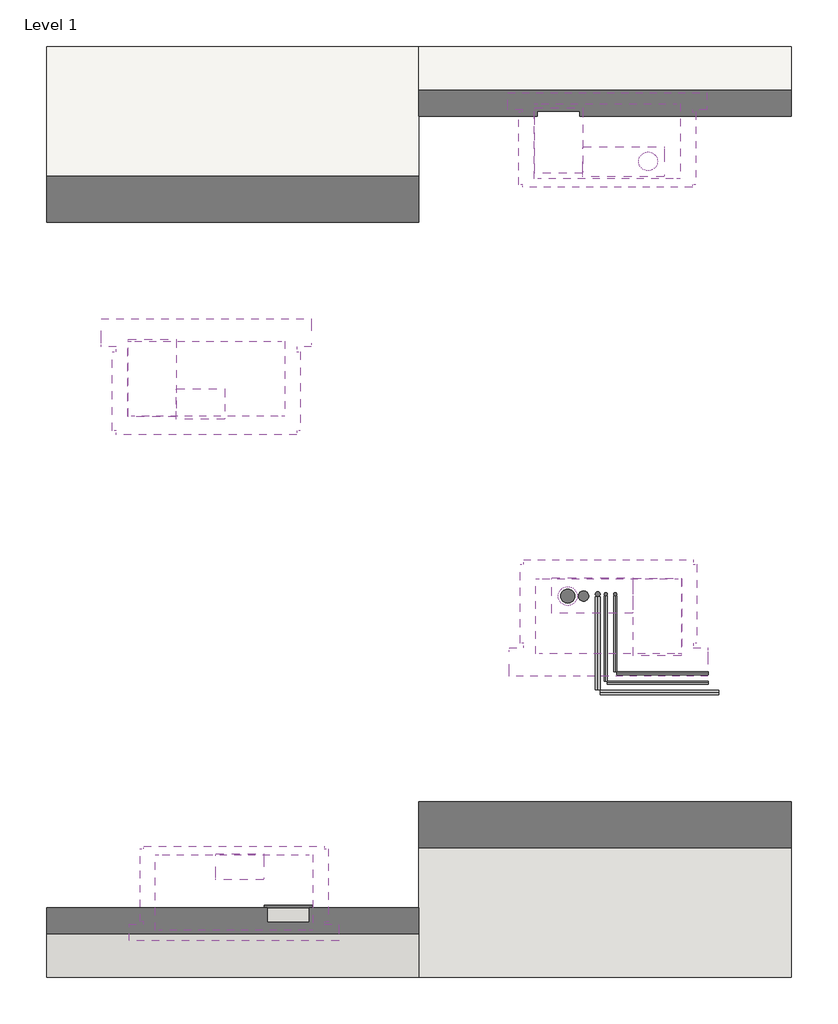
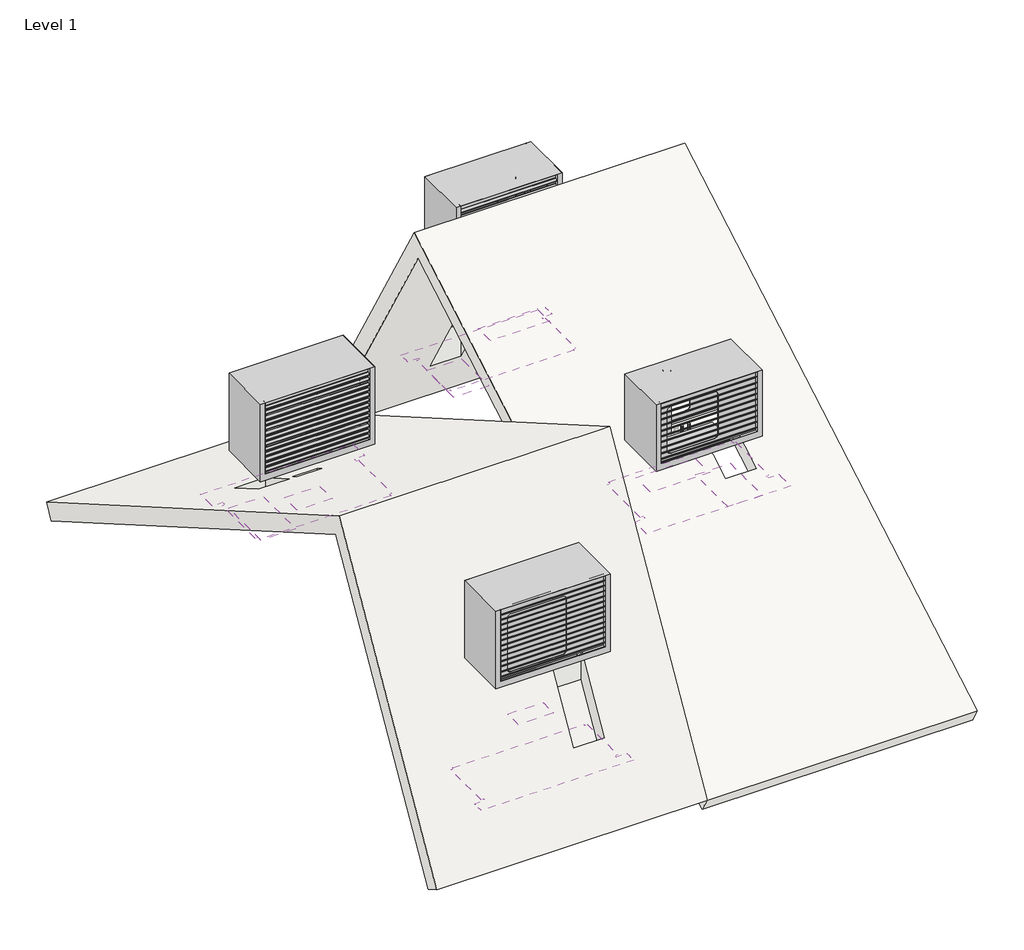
# One storey, incomplete: 12 coverings, 12 pipe segments, 4 unitary equipment elements, 2 roofs, 1 duct segment.
"""IFC4 building model written with IfcOpenShell, lengths in millimetres."""

from ifc_helpers import new_model, si_unit, point, frame, frame_2d, origin, place, context, project, spatial, circle_curve, trimmed, segment, composite_curve, outline, extrude, faceted_brep, transform, mapped, element, save
from components import covering_ebfa055f, covering_b66512e7, covering_b17e486a, covering_12e15cb3, covering_40b79405, covering_0022e7d6, covering_237e270b, covering_44cbcef2, inspection_panel_dda_93841c41, inspection_panel_dda_a83ceb8f, pipe_segment_adc9d0ba, delta_discovery_air_bdbf6794, delta_discovery_air_83ad3b17, delta_discovery_air_xl_f5126de7, delta_discovery_air_xl_14b97afa

model = new_model("IFC4")

# Units and contexts
model_context = context("Model", 3, world=origin())
ifc_project = project(units=[si_unit("LENGTHUNIT", "METRE", prefix="MILLI")], contexts=[model_context])

# Site, building, storey
site = spatial("IfcSite", under=ifc_project)
building = spatial("IfcBuilding", under=site)
storey = spatial("IfcBuildingStorey", under=building, Name="Level 1", Elevation=0.0)

# Coverings
placement = place(None, origin())
covering_shape = covering_ebfa055f(model_context)
element("IfcCovering", 1, ObjectType="NLRS_50_GM_WPB_Delta Discovery Air_roofboard-SH_M&G : roofboard DDA", at=placement, inside=storey, context=model_context, shape_type="MappedRepresentation", body=[
    mapped(covering_shape, transform((8173.9996074, -2235.3633269, 2475.4617163), x_axis=(0.0, 1.0, 0.0), y_axis=(-1.0, 0.0, 0.0), z_axis=(0.0, 0.0, 1.0))),
])
covering_2_shape = covering_b66512e7(model_context)
element("IfcCovering", 2, ObjectType="NLRS_50_GM_WPB_Delta Discovery Air_mountingbox-SH_M&G : mountingbox DDA", at=placement, inside=storey, context=model_context, shape_type="MappedRepresentation", body=[
    mapped(covering_2_shape, transform((8348.9996074, -2790.8188759, 2443.4405917), x_axis=(0.0, 1.0, 0.0), y_axis=(-1.0, 0.0, 0.0), z_axis=(0.0, 0.0, 1.0))),
])
covering_3_shape = covering_b17e486a(model_context)
element("IfcCovering", 3, ObjectType="NLRS_50_GM_WPB_Delta Discovery Air_mountingbox-SH_M&G : mountingbox DDA-XL", at=placement, inside=storey, context=model_context, shape_type="MappedRepresentation", body=[
    mapped(covering_3_shape, transform((4325.6169231, -5757.5859079, 1391.7305412), x_axis=(0.0, 1.0, 0.0), y_axis=(-1.0, 0.0, 0.0), z_axis=(0.0, 0.0, 1.0))),
])
covering_4_shape = covering_12e15cb3(model_context)
element("IfcCovering", 4, ObjectType="NLRS_50_GM_WPB_Delta Discovery Air_mountingbox-SH_M&G : mountingbox DDA", at=placement, inside=storey, context=model_context, shape_type="MappedRepresentation", body=[
    mapped(covering_4_shape, transform((8335.5299691, 2993.325922, 1571.7305412), x_axis=(0.0, -1.0, 0.0), y_axis=(1.0, 0.0, 0.0), z_axis=(0.0, 0.0, 1.0))),
])
covering_5_shape = covering_40b79405(model_context)
element("IfcCovering", 5, ObjectType="NLRS_50_GM_WPB_Delta Discovery Air_mountingbox-SH_M&G : mountingbox DDA-XL", at=placement, inside=storey, context=model_context, shape_type="MappedRepresentation", body=[
    mapped(covering_5_shape, transform((4028.9796779, 442.2510838, 2263.4405917), x_axis=(0.0, -1.0, 0.0), y_axis=(1.0, 0.0, 0.0), z_axis=(0.0, 0.0, 1.0))),
])
covering_6_shape = covering_0022e7d6(model_context)
element("IfcCovering", 6, ObjectType="NLRS_50_GM_WPB_Delta Discovery Air_roofboard-SH_M&G : roofboard DDA-XL", at=placement, inside=storey, context=model_context, shape_type="MappedRepresentation", body=[
    mapped(covering_6_shape, transform((4387.1169231, -5151.0925738, 1942.219356), x_axis=(0.0, 1.0, 0.0), y_axis=(-1.0, 0.0, 0.0), z_axis=(0.0, 0.0, 1.0))),
])
covering_7_shape = covering_237e270b(model_context)
element("IfcCovering", 7, ObjectType="NLRS_50_GM_WPB_Delta Discovery Air_roofboard-SH_M&G : roofboard DDA-XL", at=placement, inside=storey, context=model_context, shape_type="MappedRepresentation", body=[
    mapped(covering_7_shape, transform((3967.4796779, -166.4650275, 2326.2117163), x_axis=(0.0, -1.0, 0.0), y_axis=(1.0, 0.0, 0.0), z_axis=(0.0, 0.0, 1.0))),
])
covering_8_shape = covering_44cbcef2(model_context)
element("IfcCovering", 8, ObjectType="NLRS_50_GM_WPB_Delta Discovery Air_roofboard-SH_M&G : roofboard DDA", at=placement, inside=storey, context=model_context, shape_type="MappedRepresentation", body=[
    mapped(covering_8_shape, transform((8510.5299691, 2441.3325879, 2027.822587), x_axis=(0.0, -1.0, 0.0), y_axis=(1.0, 0.0, 0.0), z_axis=(0.0, 0.0, 1.0))),
])
inspection_panel_dda_shape = inspection_panel_dda_93841c41(model_context)
element("IfcCovering", 9, ObjectType="NLRS_50_GM_WPB_Delta Discovery Air_insp panel-SH_M&G : inspection panel DDA", at=placement, inside=storey, context=model_context, shape_type="MappedRepresentation", body=[
    mapped(inspection_panel_dda_shape, transform((8871.4996074, -2464.4270462, 2343.2117163), x_axis=(0.0, 1.0000000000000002, 0.0), y_axis=(-1.0000000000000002, 0.0, 0.0), z_axis=(0.0, 0.0, 1.0))),
])
element("IfcCovering", 10, ObjectType="NLRS_50_GM_WPB_Delta Discovery Air_insp panel-SH_M&G : inspection panel DDA", at=placement, inside=storey, context=model_context, shape_type="MappedRepresentation", body=[
    mapped(inspection_panel_dda_shape, transform((3446.4796779, 115.8592541, 2163.2117163), x_axis=(0.0, -1.0000000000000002, 0.0), y_axis=(1.0000000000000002, 0.0, 0.0), z_axis=(0.0, 0.0, 1.0))),
])
inspection_panel_dda_2_shape = inspection_panel_dda_a83ceb8f(model_context)
element("IfcCovering", 11, ObjectType="NLRS_50_GM_WPB_Delta Discovery Air_insp panel-SH_M&G : inspection panel DDA", at=placement, inside=storey, context=model_context, shape_type="MappedRepresentation", body=[
    mapped(inspection_panel_dda_2_shape, transform((4908.1169231, -5435.0925738, 1450.3169266), x_axis=(0.0, 1.0000000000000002, 0.0), y_axis=(-1.0000000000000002, 0.0, 0.0), z_axis=(0.0, 0.0, 1.0))),
])
element("IfcCovering", 12, ObjectType="NLRS_50_GM_WPB_Delta Discovery Air_insp panel-SH_M&G : inspection panel DDA", at=placement, inside=storey, context=model_context, shape_type="MappedRepresentation", body=[
    mapped(inspection_panel_dda_2_shape, transform((7813.0299691, 2670.8325879, 1630.3169266), x_axis=(0.0, -1.0000000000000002, 0.0), y_axis=(1.0000000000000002, 0.0, 0.0), z_axis=(0.0, 0.0, 1.0))),
])

# Duct segment
element("IfcDuctSegment", 13, ObjectType="Default", at=placement, inside=storey, context=model_context, shape_type="SweptSolid", body=[
    extrude(outline(composite_curve([segment(trimmed(circle_curve(frame_2d((7910.9996074, -2233.8255417)), 75.0), [point((7910.9996074, -2158.8255417))], [point((7985.9996074, -2233.8255417))], False, "CARTESIAN"), True, "CONTINUOUS"), segment(trimmed(circle_curve(frame_2d((7910.9996074, -2233.8255417)), 75.0), [point((7985.9996074, -2233.8255417))], [point((7910.9996074, -2308.8255417))], False, "CARTESIAN"), True, "CONTINUOUS"), segment(trimmed(circle_curve(frame_2d((7910.9996074, -2233.8255417)), 75.0), [point((7910.9996074, -2308.8255417))], [point((7835.9996074, -2233.8255417))], False, "CARTESIAN"), True, "CONTINUOUS"), segment(trimmed(circle_curve(frame_2d((7910.9996074, -2233.8255417)), 75.0), [point((7835.9996074, -2233.8255417))], [point((7910.9996074, -2158.8255417))], False, "CARTESIAN"), True, "CONTINUOUS")], self_intersect=False)), frame((0.0, 0.0, 344.2186654), z_axis=(0.0, 0.0, 1.0), x_axis=(1.0, 0.0, 0.0)), (0.0, 0.0, 1.0), 1720.0),
])

# Pipe segments
pipe_segment_shape = pipe_segment_adc9d0ba(model_context)
element("IfcPipeSegment", 14, ObjectType="NLRS_50_GM_WPB_Delta Discovery Air_pipe extension set-SH_M&G : pipe ext set L=1000mm", at=placement, inside=storey, context=model_context, shape_type="MappedRepresentation", body=[
    mapped(pipe_segment_shape, transform((7910.9996074, -2233.8255417, 3064.2186654), x_axis=(1.0, 0.0, 0.0), y_axis=(0.0, 1.0, 0.0), z_axis=(0.0, 0.0, 1.0))),
])
element("IfcPipeSegment", 15, ObjectType="NLRS_50_GM_WPB_Delta Discovery Air_pipe extension set-SH_M&G : pipe ext set L=1000mm", at=placement, inside=storey, context=model_context, shape_type="MappedRepresentation", body=[
    mapped(pipe_segment_shape, transform((8773.5299691, 2436.3325879, 3064.2186654), x_axis=(-1.0, 0.0, 0.0), y_axis=(0.0, -1.0, 0.0), z_axis=(0.0, 0.0, 1.0))),
])
element("IfcPipeSegment", 16, ObjectType="design HDPE", at=placement, inside=storey, context=model_context, shape_type="SweptSolid", body=[
    extrude(outline(composite_curve([segment(trimmed(circle_curve(frame_2d((0.0, 24.9999999)), 25.0), [point((25.0, 24.9999999))], [point((0.0, 0.0))], False, "CARTESIAN"), True, "CONTINUOUS"), segment(trimmed(circle_curve(frame_2d((0.0, 24.9999999)), 25.0), [point((0.0, 0.0))], [point((-25.0, 24.9999999))], False, "CARTESIAN"), True, "CONTINUOUS"), segment(trimmed(circle_curve(frame_2d((0.0, 24.9999999)), 25.0), [point((-25.0, 24.9999999))], [point((0.0, 50.0))], False, "CARTESIAN"), True, "CONTINUOUS"), segment(trimmed(circle_curve(frame_2d((0.0, 24.9999999)), 25.0), [point((0.0, 50.0))], [point((25.0, 24.9999999))], False, "CARTESIAN"), True, "CONTINUOUS")], self_intersect=False)), frame((8233.0745736, -3240.1399399, 79.9160162), z_axis=(0.0, 0.9998875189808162, 0.014998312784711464), x_axis=(1.0, 0.0, 0.0)), (0.0, 0.0, 1.0), 999.5550208),
])
element("IfcPipeSegment", 17, ObjectType="design HDPE", at=placement, inside=storey, context=model_context, shape_type="SweptSolid", body=[
    extrude(outline(composite_curve([segment(trimmed(circle_curve(frame_2d((0.0, 25.0)), 25.0), [point((0.0, 50.0))], [point((25.0, 25.0))], False, "CARTESIAN"), True, "CONTINUOUS"), segment(trimmed(circle_curve(frame_2d((0.0, 25.0)), 25.0), [point((25.0, 25.0))], [point((0.0, 0.0))], False, "CARTESIAN"), True, "CONTINUOUS"), segment(trimmed(circle_curve(frame_2d((0.0, 25.0)), 25.0), [point((0.0, 0.0))], [point((-25.0, 25.0))], False, "CARTESIAN"), True, "CONTINUOUS"), segment(trimmed(circle_curve(frame_2d((0.0, 25.0)), 25.0), [point((-25.0, 25.0))], [point((0.0, 50.0))], False, "CARTESIAN"), True, "CONTINUOUS")], self_intersect=False)), frame((9532.9996074, -3292.7618326, 35.0), z_axis=(-0.9998875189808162, 0.0, 0.014998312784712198), x_axis=(0.014998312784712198, 0.0, 0.9998875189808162)), (0.0, 0.0, 1.0), 1272.0712671),
])
element("IfcPipeSegment", 18, ObjectType="design HDPE", at=placement, inside=storey, context=model_context, shape_type="SweptSolid", body=[
    extrude(outline(composite_curve([segment(trimmed(circle_curve(frame_2d((8232.9996074, -2212.3255417)), 25.0), [point((8257.9996074, -2212.3255417))], [point((8232.9996074, -2237.3255417))], False, "CARTESIAN"), True, "CONTINUOUS"), segment(trimmed(circle_curve(frame_2d((8232.9996074, -2212.3255417)), 25.0), [point((8232.9996074, -2237.3255417))], [point((8207.9996074, -2212.3255417))], False, "CARTESIAN"), True, "CONTINUOUS"), segment(trimmed(circle_curve(frame_2d((8232.9996074, -2212.3255417)), 25.0), [point((8207.9996074, -2212.3255417))], [point((8232.9996074, -2187.3255417))], False, "CARTESIAN"), True, "CONTINUOUS"), segment(trimmed(circle_curve(frame_2d((8232.9996074, -2212.3255417)), 25.0), [point((8232.9996074, -2187.3255417))], [point((8257.9996074, -2212.3255417))], False, "CARTESIAN"), True, "CONTINUOUS")], self_intersect=False)), frame((0.0, 0.0, 98.3304199), z_axis=(0.0, 0.0, 1.0), x_axis=(1.0, 0.0, 0.0)), (0.0, 0.0, 1.0), 1965.8882455),
])
element("IfcPipeSegment", 19, ObjectType="design HDPE", at=placement, inside=storey, context=model_context, shape_type="SweptSolid", body=[
    extrude(outline(composite_curve([segment(trimmed(circle_curve(frame_2d((8080.9996074, -2233.8255417)), 55.0), [point((8135.9996074, -2233.8255417))], [point((8080.9996074, -2288.8255417))], False, "CARTESIAN"), True, "CONTINUOUS"), segment(trimmed(circle_curve(frame_2d((8080.9996074, -2233.8255417)), 55.0), [point((8080.9996074, -2288.8255417))], [point((8025.9996074, -2233.8255417))], False, "CARTESIAN"), True, "CONTINUOUS"), segment(trimmed(circle_curve(frame_2d((8080.9996074, -2233.8255417)), 55.0), [point((8025.9996074, -2233.8255417))], [point((8080.9996074, -2178.8255417))], False, "CARTESIAN"), True, "CONTINUOUS"), segment(trimmed(circle_curve(frame_2d((8080.9996074, -2233.8255417)), 55.0), [point((8080.9996074, -2178.8255417))], [point((8135.9996074, -2233.8255417))], False, "CARTESIAN"), True, "CONTINUOUS")], self_intersect=False)), frame((0.0, 0.0, 217.5), z_axis=(0.0, 0.0, 1.0), x_axis=(1.0, 0.0, 0.0)), (0.0, 0.0, 1.0), 1846.7186654),
])
element("IfcPipeSegment", 20, ObjectType="design steel pipes", at=placement, inside=storey, context=model_context, shape_type="SweptSolid", body=[
    extrude(outline(composite_curve([segment(trimmed(circle_curve(frame_2d((8419.9996074, -2212.3255417)), 16.85), [point((8436.8496074, -2212.3255417))], [point((8419.9996074, -2229.1755417))], False, "CARTESIAN"), True, "CONTINUOUS"), segment(trimmed(circle_curve(frame_2d((8419.9996074, -2212.3255417)), 16.85), [point((8419.9996074, -2229.1755417))], [point((8403.1496074, -2212.3255417))], False, "CARTESIAN"), True, "CONTINUOUS"), segment(trimmed(circle_curve(frame_2d((8419.9996074, -2212.3255417)), 16.85), [point((8403.1496074, -2212.3255417))], [point((8419.9996074, -2195.4755417))], False, "CARTESIAN"), True, "CONTINUOUS"), segment(trimmed(circle_curve(frame_2d((8419.9996074, -2212.3255417)), 16.85), [point((8419.9996074, -2195.4755417))], [point((8436.8496074, -2212.3255417))], False, "CARTESIAN"), True, "CONTINUOUS")], self_intersect=False)), frame((0.0, 0.0, 42.4995797), z_axis=(0.0, 0.0, 1.0), x_axis=(1.0, 0.0, 0.0)), (0.0, 0.0, 1.0), 3013.9764006),
])
element("IfcPipeSegment", 21, ObjectType="design steel pipes", at=placement, inside=storey, context=model_context, shape_type="SweptSolid", body=[
    extrude(outline(composite_curve([segment(trimmed(circle_curve(frame_2d((24.9995797, 8419.9996074)), 16.85), [point((24.9995797, 8403.1496074))], [point((8.1495797, 8419.9996074))], False, "CARTESIAN"), True, "CONTINUOUS"), segment(trimmed(circle_curve(frame_2d((24.9995797, 8419.9996074)), 16.85), [point((8.1495797, 8419.9996074))], [point((24.9995797, 8436.8496074))], False, "CARTESIAN"), True, "CONTINUOUS"), segment(trimmed(circle_curve(frame_2d((24.9995797, 8419.9996074)), 16.85), [point((24.9995797, 8436.8496074))], [point((41.8495797, 8419.9996074))], False, "CARTESIAN"), True, "CONTINUOUS"), segment(trimmed(circle_curve(frame_2d((24.9995797, 8419.9996074)), 16.85), [point((41.8495797, 8419.9996074))], [point((24.9995797, 8403.1496074))], False, "CARTESIAN"), True, "CONTINUOUS")], self_intersect=False)), frame((0.0, -3045.7088458, 0.0), z_axis=(0.0, 1.0, 0.0), x_axis=(0.0, 0.0, 1.0)), (0.0, 0.0, 1.0), 815.8833041),
])
element("IfcPipeSegment", 22, ObjectType="design steel pipes", at=placement, inside=storey, context=model_context, shape_type="SweptSolid", body=[
    extrude(outline(composite_curve([segment(trimmed(circle_curve(frame_2d((0.0, 16.85)), 16.85), [point((-16.85, 16.85))], [point((0.0, 33.7))], False, "CARTESIAN"), True, "CONTINUOUS"), segment(trimmed(circle_curve(frame_2d((0.0, 16.85)), 16.85), [point((0.0, 33.7))], [point((16.85, 16.85))], False, "CARTESIAN"), True, "CONTINUOUS"), segment(trimmed(circle_curve(frame_2d((0.0, 16.85)), 16.85), [point((16.85, 16.85))], [point((0.0, 0.0))], False, "CARTESIAN"), True, "CONTINUOUS"), segment(trimmed(circle_curve(frame_2d((0.0, 16.85)), 16.85), [point((0.0, 0.0))], [point((-16.85, 16.85))], False, "CARTESIAN"), True, "CONTINUOUS")], self_intersect=False)), frame((8437.5000121, -3063.2088458, 8.15), z_axis=(0.9999999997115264, 0.0, 2.401972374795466e-05), x_axis=(0.0, 1.0, 0.0)), (0.0, 0.0, 1.0), 982.5430319),
])
element("IfcPipeSegment", 23, ObjectType="design steel pipes", at=placement, inside=storey, context=model_context, shape_type="SweptSolid", body=[
    extrude(outline(composite_curve([segment(trimmed(circle_curve(frame_2d((8319.9996074, -2212.3255417)), 16.85), [point((8303.1496074, -2212.3255417))], [point((8319.9996074, -2195.4755417))], False, "CARTESIAN"), True, "CONTINUOUS"), segment(trimmed(circle_curve(frame_2d((8319.9996074, -2212.3255417)), 16.85), [point((8319.9996074, -2195.4755417))], [point((8336.8496074, -2212.3255417))], False, "CARTESIAN"), True, "CONTINUOUS"), segment(trimmed(circle_curve(frame_2d((8319.9996074, -2212.3255417)), 16.85), [point((8336.8496074, -2212.3255417))], [point((8319.9996074, -2229.1755417))], False, "CARTESIAN"), True, "CONTINUOUS"), segment(trimmed(circle_curve(frame_2d((8319.9996074, -2212.3255417)), 16.85), [point((8319.9996074, -2229.1755417))], [point((8303.1496074, -2212.3255417))], False, "CARTESIAN"), True, "CONTINUOUS")], self_intersect=False)), frame((0.0, 0.0, 42.4995797), z_axis=(0.0, 0.0, 1.0), x_axis=(1.0, 0.0, 0.0)), (0.0, 0.0, 1.0), 3013.9764006),
])
element("IfcPipeSegment", 24, ObjectType="design steel pipes", at=placement, inside=storey, context=model_context, shape_type="SweptSolid", body=[
    extrude(outline(composite_curve([segment(trimmed(circle_curve(frame_2d((24.9995797, 8319.9996074)), 16.85), [point((24.9995797, 8303.1496074))], [point((8.1495797, 8319.9996074))], False, "CARTESIAN"), True, "CONTINUOUS"), segment(trimmed(circle_curve(frame_2d((24.9995797, 8319.9996074)), 16.85), [point((8.1495797, 8319.9996074))], [point((24.9995797, 8336.8496074))], False, "CARTESIAN"), True, "CONTINUOUS"), segment(trimmed(circle_curve(frame_2d((24.9995797, 8319.9996074)), 16.85), [point((24.9995797, 8336.8496074))], [point((41.8495797, 8319.9996074))], False, "CARTESIAN"), True, "CONTINUOUS"), segment(trimmed(circle_curve(frame_2d((24.9995797, 8319.9996074)), 16.85), [point((41.8495797, 8319.9996074))], [point((24.9995797, 8303.1496074))], False, "CARTESIAN"), True, "CONTINUOUS")], self_intersect=False)), frame((0.0, -3145.7088458, 0.0), z_axis=(0.0, 1.0, 0.0), x_axis=(0.0, 0.0, 1.0)), (0.0, 0.0, 1.0), 915.8833041),
])
element("IfcPipeSegment", 25, ObjectType="design steel pipes", at=placement, inside=storey, context=model_context, shape_type="SweptSolid", body=[
    extrude(outline(composite_curve([segment(trimmed(circle_curve(frame_2d((0.0, 16.85)), 16.85), [point((-16.85, 16.85))], [point((0.0, 33.7))], False, "CARTESIAN"), True, "CONTINUOUS"), segment(trimmed(circle_curve(frame_2d((0.0, 16.85)), 16.85), [point((0.0, 33.7))], [point((16.85, 16.85))], False, "CARTESIAN"), True, "CONTINUOUS"), segment(trimmed(circle_curve(frame_2d((0.0, 16.85)), 16.85), [point((16.85, 16.85))], [point((0.0, 0.0))], False, "CARTESIAN"), True, "CONTINUOUS"), segment(trimmed(circle_curve(frame_2d((0.0, 16.85)), 16.85), [point((0.0, 0.0))], [point((-16.85, 16.85))], False, "CARTESIAN"), True, "CONTINUOUS")], self_intersect=False)), frame((8337.5000121, -3163.2088458, 8.15), z_axis=(0.9999999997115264, 0.0, 2.401972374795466e-05), x_axis=(0.0, 1.0, 0.0)), (0.0, 0.0, 1.0), 1082.5441438),
])

# Roofs
element("IfcRoof", 26, ObjectType="Roof 1", at=placement, inside=storey, context=model_context, shape_type="Brep", body=[
    faceted_brep([(2311.6571684, -6330.1684687, 400.0), (2311.6571684, -3830.1684687, 4730.1270189), (2311.6571684, 3669.8315313, 400.0), (2311.6571684, 3544.8315313, 183.4936491), (2311.6571684, -3738.6621178, 4388.620668), (2311.6571684, -6113.6621178, 275.0), (6311.6571684, -3830.1684687, 4730.1270189), (6311.6571684, -6330.1684687, 400.0), (6311.6571684, -6113.6621178, 275.0), (6311.6571684, -3738.6621178, 4388.620668), (6311.6571684, 3544.8315313, 183.4936491), (6311.6571684, 3669.8315313, 400.0), (5135.6169231, -5132.5925738, 2474.2622959), (5135.6169231, -5737.5925738, 1426.3715573), (4680.6169231, -5737.5925738, 1426.3715573), (4680.6169231, -5132.5925738, 2474.2622959), (4582.6169231, -5091.0925738, 2546.1424044), (4582.6169231, -5211.0925738, 2338.2963075), (4219.6169231, -5211.0925738, 2338.2963075), (4219.6169231, -5091.0925738, 2546.1424044), (3218.9796779, -186.8166245, 2626.6368509), (3218.9796779, 418.5351327, 2277.1368509), (3673.9796779, 418.5351327, 2277.1368509), (3673.9796779, -186.8166245, 2626.6368509), (3771.9796779, -226.6537931, 2649.6368509), (3771.9796779, -106.276262, 2580.1368509), (4134.9796779, -106.276262, 2580.1368509), (4134.9796779, -226.6537931, 2649.6368509), (3218.9796779, 418.5351327, 1988.4617163), (3218.9796779, -186.8166245, 2337.9617163), (3673.9796779, -186.8166245, 2337.9617163), (3673.9796779, 418.5351327, 1988.4617163), (3771.9796779, -106.276262, 2291.4617163), (3771.9796779, -226.6537931, 2360.9617163), (4134.9796779, -226.6537931, 2360.9617163), (4134.9796779, -106.276262, 2291.4617163), (5135.6169231, -5737.5925738, 926.3715573), (5135.6169231, -5132.5925738, 1974.2622959), (4680.6169231, -5132.5925738, 1974.2622959), (4680.6169231, -5737.5925738, 926.3715573), (4582.6169231, -5211.0925738, 1838.2963075), (4582.6169231, -5091.0925738, 2046.1424044), (4219.6169231, -5091.0925738, 2046.1424044), (4219.6169231, -5211.0925738, 1838.2963075)], [[[0, 1, 2, 3, 4, 5]], [[6, 7, 8, 9, 10, 11]], [[1, 0, 7, 6], [12, 13, 14, 15], [16, 17, 18, 19]], [[2, 1, 6, 11], [20, 21, 22, 23], [24, 25, 26, 27]], [[9, 4, 3, 10], [28, 29, 30, 31], [32, 33, 34, 35]], [[4, 9, 8, 5], [36, 37, 38, 39], [40, 41, 42, 43]], [[3, 2, 11, 10]], [[0, 5, 8, 7]], [[36, 13, 12, 37]], [[38, 15, 14, 39]], [[37, 12, 15, 38]], [[13, 36, 39, 14]], [[40, 17, 16, 41]], [[42, 19, 18, 43]], [[41, 16, 19, 42]], [[17, 40, 43, 18]], [[28, 21, 20, 29]], [[30, 23, 22, 31]], [[29, 20, 23, 30]], [[21, 28, 31, 22]], [[32, 25, 24, 33]], [[34, 27, 26, 35]], [[33, 24, 27, 34]], [[25, 32, 35, 26]]]),
])
element("IfcRoof", 27, ObjectType="Roof 1", at=placement, inside=storey, context=model_context, shape_type="Brep", body=[
    faceted_brep([(10311.6571684, 3669.8315313, 400.0), (10311.6571684, 1169.8315313, 4730.1270189), (10311.6571684, -6330.1684687, 400.0), (10311.6571684, -6205.1684687, 183.4936491), (10311.6571684, 1078.3251803, 4388.620668), (10311.6571684, 3453.3251803, 275.0), (6311.6571684, 1169.8315313, 4730.1270189), (6311.6571684, 3669.8315313, 400.0), (6311.6571684, 3453.3251803, 275.0), (6311.6571684, 1078.3251803, 4388.620668), (6311.6571684, -6205.1684687, 183.4936491), (6311.6571684, -6330.1684687, 400.0), (7585.5299691, 2368.3325879, 2654.2622959), (7585.5299691, 2973.3325879, 1606.3715573), (8040.5299691, 2973.3325879, 1606.3715573), (8040.5299691, 2368.3325879, 2654.2622959), (8142.5299691, 2331.3325879, 2718.3481758), (8142.5299691, 2551.3325879, 2337.2969981), (8884.5299691, 2551.3325879, 2337.2969981), (8884.5299691, 2331.3325879, 2718.3481758), (9098.9996074, -2161.7511676, 2806.6368509), (9098.9996074, -2767.1029248, 2457.1368509), (8643.9996074, -2767.1029248, 2457.1368509), (8643.9996074, -2161.7511676, 2806.6368509), (8541.9996074, -2125.3781006, 2827.6368509), (8541.9996074, -2345.3485532, 2700.6368509), (7799.9996074, -2345.3485532, 2700.6368509), (7799.9996074, -2125.3781006, 2827.6368509), (9098.9996074, -2767.1029248, 2168.4617163), (9098.9996074, -2161.7511676, 2517.9617163), (8643.9996074, -2161.7511676, 2517.9617163), (8643.9996074, -2767.1029248, 2168.4617163), (8541.9996074, -2345.3485532, 2411.9617163), (8541.9996074, -2125.3781006, 2538.9617163), (7799.9996074, -2125.3781006, 2538.9617163), (7799.9996074, -2345.3485532, 2411.9617163), (7585.5299691, 2973.3325879, 1106.3715573), (7585.5299691, 2368.3325879, 2154.2622959), (8040.5299691, 2368.3325879, 2154.2622959), (8040.5299691, 2973.3325879, 1106.3715573), (8142.5299691, 2551.3325879, 1837.2969981), (8142.5299691, 2331.3325879, 2218.3481758), (8884.5299691, 2331.3325879, 2218.3481758), (8884.5299691, 2551.3325879, 1837.2969981)], [[[0, 1, 2, 3, 4, 5]], [[6, 7, 8, 9, 10, 11]], [[1, 0, 7, 6], [12, 13, 14, 15], [16, 17, 18, 19]], [[2, 1, 6, 11], [20, 21, 22, 23], [24, 25, 26, 27]], [[9, 4, 3, 10], [28, 29, 30, 31], [32, 33, 34, 35]], [[4, 9, 8, 5], [36, 37, 38, 39], [40, 41, 42, 43]], [[3, 2, 11, 10]], [[0, 5, 8, 7]], [[28, 21, 20, 29]], [[30, 23, 22, 31]], [[29, 20, 23, 30]], [[21, 28, 31, 22]], [[32, 25, 24, 33]], [[34, 27, 26, 35]], [[33, 24, 27, 34]], [[25, 32, 35, 26]], [[36, 13, 12, 37]], [[38, 15, 14, 39]], [[37, 12, 15, 38]], [[13, 36, 39, 14]], [[40, 17, 16, 41]], [[42, 19, 18, 43]], [[41, 16, 19, 42]], [[17, 40, 43, 18]]]),
])

# Unitary equipment
delta_discovery_air_shape = delta_discovery_air_bdbf6794(model_context)
element("IfcUnitaryEquipment", 28, ObjectType="NLRS_50_GM_WPB_Delta Discovery Air_M&G : Delta Discovery Air", at=placement, inside=storey, context=model_context, shape_type="MappedRepresentation", body=[
    mapped(delta_discovery_air_shape, transform((8348.9996074, -2048.3255417, 2872.1231665), x_axis=(1.0, 0.0, 0.0), y_axis=(0.0, 1.0, 0.0), z_axis=(0.0, 0.0, 1.0))),
])
delta_discovery_air_2_shape = delta_discovery_air_83ad3b17(model_context)
element("IfcUnitaryEquipment", 29, ObjectType="NLRS_50_GM_WPB_Delta Discovery Air_M&G : Delta Discovery Air", at=placement, inside=storey, context=model_context, shape_type="MappedRepresentation", body=[
    mapped(delta_discovery_air_2_shape, transform((8335.5299691, 2250.8325879, 2857.7782658), x_axis=(-1.0, 0.0, 0.0), y_axis=(0.0, -1.0, 0.0), z_axis=(0.0, 0.0, 1.0))),
])
delta_discovery_air_xl_shape = delta_discovery_air_xl_f5126de7(model_context)
element("IfcUnitaryEquipment", 30, ObjectType="NLRS_50_GM_WPB_Delta Discovery Air_M&G : Delta Discovery Air-XL", at=placement, inside=storey, context=model_context, shape_type="MappedRepresentation", body=[
    mapped(delta_discovery_air_xl_shape, transform((4325.6169231, -5015.0925738, 2677.7782658), x_axis=(1.0, 0.0, 0.0), y_axis=(0.0, 1.0, 0.0), z_axis=(0.0, 0.0, 1.0))),
])
delta_discovery_air_xl_2_shape = delta_discovery_air_xl_14b97afa(model_context)
element("IfcUnitaryEquipment", 31, ObjectType="NLRS_50_GM_WPB_Delta Discovery Air_M&G : Delta Discovery Air-XL", at=placement, inside=storey, context=model_context, shape_type="MappedRepresentation", body=[
    mapped(delta_discovery_air_xl_2_shape, transform((4028.9796779, -300.2422504, 2692.1231665), x_axis=(-1.0, 0.0, 0.0), y_axis=(0.0, -1.0, 0.0), z_axis=(0.0, 0.0, 1.0))),
])

save(model, "model.ifc")
